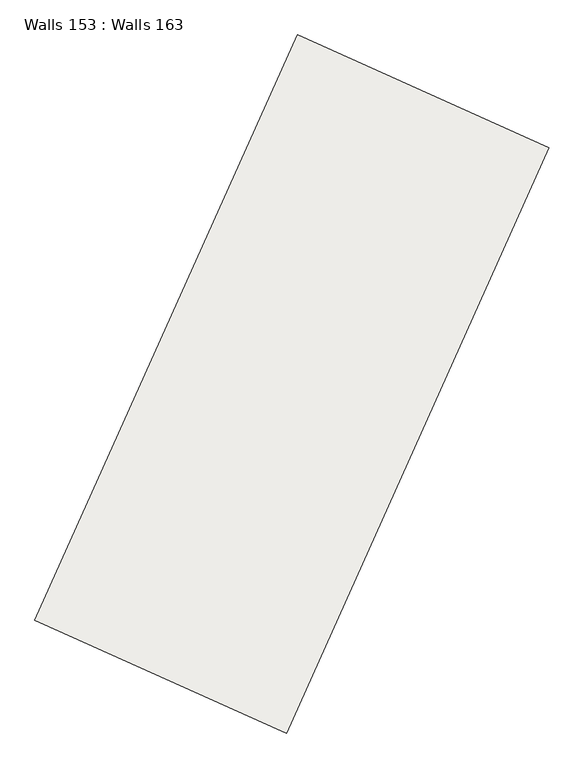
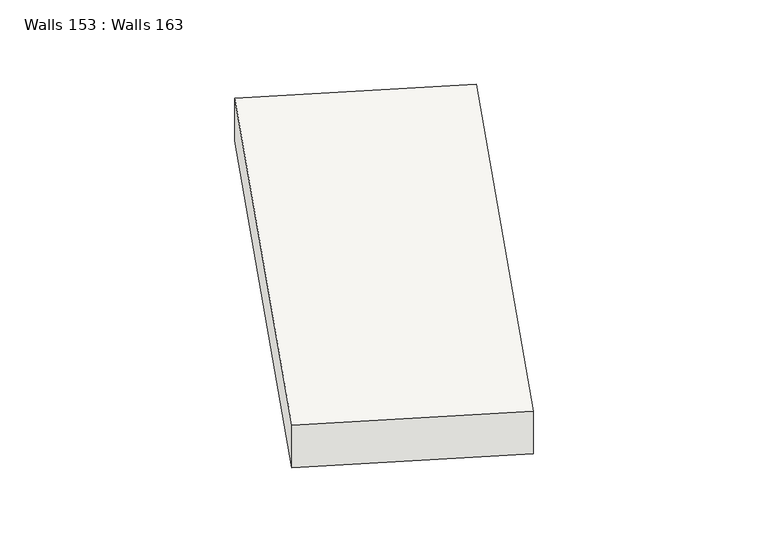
"""IFC4 building model written with IfcOpenShell, lengths in millimetres: slab geometry, Walls 153 : Walls 163."""

from ifc_helpers import new_model, si_unit, frame, origin, place, context, project, spatial, polyline, outline, extrude, source, transform, mapped, element, save


def walls_153_walls_163_115babde(model_context):
    return source(origin(), model_context, "Body", "SweptSolid", [
        extrude(outline(polyline([(-425.0, 0.0), (425.0, 0.0), (315.0, -9299.9999995), (-535.0, -9299.9999995), (-425.0, 0.0)])), frame((199151.1499079, 78703.0590372, 641855.0), z_axis=(-0.9122727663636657, 0.40958320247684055, 0.0), x_axis=(0.0, 0.0, 1.0)), (0.0, 0.0, 1.0), 4000.0),
    ])


if __name__ == "__main__":
    model = new_model("IFC4")
    model_context = context("Model", 3, world=origin())
    ifc_project = project(units=[si_unit("LENGTHUNIT", "METRE", prefix="MILLI")], contexts=[model_context])
    site = spatial("IfcSite", under=ifc_project)
    building = spatial("IfcBuilding", under=site)
    placement = place(None, origin())
    walls_153_walls_163_shape = walls_153_walls_163_115babde(model_context)
    element("IfcSlab", 1, ObjectType="Walls 153 : Walls 163", at=placement, inside=building, context=model_context, shape_type="MappedRepresentation", body=[
        mapped(walls_153_walls_163_shape, transform((0.0, 0.0, 0.0), x_axis=(1.0, 0.0, 0.0), y_axis=(0.0, 1.0, 0.0), z_axis=(0.0, 0.0, 1.0))),
    ])
    save(model, "model.ifc")
